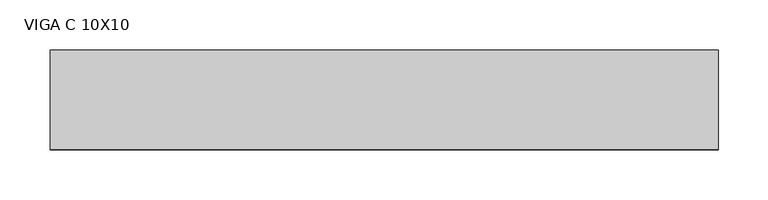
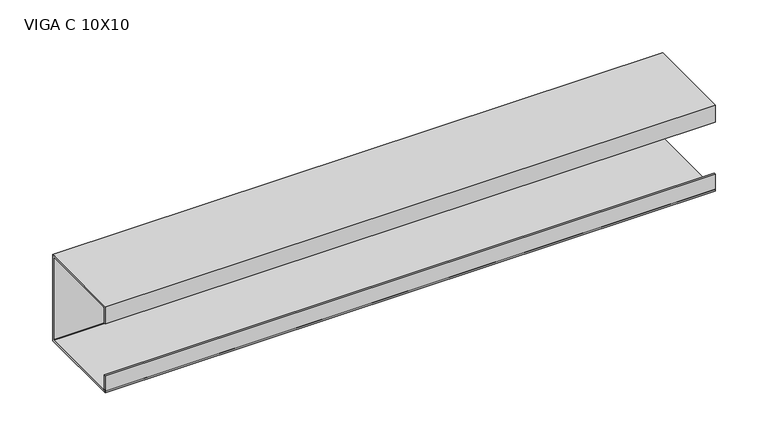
"""IFC4 building model written with IfcOpenShell, lengths in millimetres: beam geometry, VIGA PERFIL C AÇO : VIGA C 10X10."""

import ifcopenshell
import ifcopenshell.guid

model = None  # the IFC model being written
_history = None  # IfcOwnerHistory: only IFC2X3 demands one
_inside = {}  # id of a spatial element -> (the spatial element, [elements in it])
_under = {}  # id of a project, library or spatial element -> (it, [spatial elements below it])
_declared = {}  # id of a project -> (the project, [libraries it declares])
_typed = {}  # id of a type object -> (the type object, [elements of that type])
_made_of = {}  # id of a material, layer set ... -> (it, [elements and type objects made of it])


def new_model(schema):
    """Start an empty IFC model of exactly this schema.

    Asked for "IFC4X3", IfcOpenShell would pick the latest addendum, in which some entities
    have other attributes; the version numbers below select the first issue.
    IFC2X3 requires an IfcOwnerHistory on every rooted entity: one is made here for all.
    """
    global model, _history
    if schema == "IFC4X3":
        model = ifcopenshell.file(schema_version=(4, 3, 0, 0))
    else:
        model = ifcopenshell.file(schema=schema)
    _inside.clear()
    _under.clear()
    _declared.clear()
    _typed.clear()
    _made_of.clear()
    _history = None
    if model.schema == "IFC2X3":
        org = make("IfcOrganization", Name="unknown")
        user = make(
            "IfcPersonAndOrganization",
            ThePerson=make("IfcPerson", FamilyName="unknown"),
            TheOrganization=org,
        )
        app = make(
            "IfcApplication",
            ApplicationDeveloper=org,
            Version="unknown",
            ApplicationFullName="unknown",
            ApplicationIdentifier="unknown",
        )
        _history = make(
            "IfcOwnerHistory",
            OwningUser=user,
            OwningApplication=app,
            ChangeAction="ADDED",
            CreationDate=0,
        )
    return model


def make(cls, **values):
    """One entity of the class cls with the attributes given. An attribute that is None is left unset."""
    return model.create_entity(
        cls, **{name: value for name, value in values.items() if value is not None}
    )


def rooted(cls, **values):
    """An entity with a GlobalId (a new one), such as an element, a storey or a relation."""
    return make(cls, GlobalId=ifcopenshell.guid.new(), OwnerHistory=_history, **values)


def si_unit(unit_type, name, prefix=None):
    """IfcSIUnit, for example si_unit("LENGTHUNIT", "METRE", prefix="MILLI")."""
    return make("IfcSIUnit", UnitType=unit_type, Prefix=prefix, Name=name)


def assignment(units):
    """IfcUnitAssignment: the units of a project."""
    return None if units is None else make("IfcUnitAssignment", Units=units)


def point(xyz):
    """IfcCartesianPoint."""
    return None if xyz is None else make("IfcCartesianPoint", Coordinates=xyz)


def direction(xyz):
    """IfcDirection."""
    return None if xyz is None else make("IfcDirection", DirectionRatios=xyz)


def frame(location, z_axis=None, x_axis=None):
    """IfcAxis2Placement3D, a coordinate frame: its origin and axes. An axis left out is left unset."""
    return make(
        "IfcAxis2Placement3D",
        Location=point(location),
        Axis=direction(z_axis),
        RefDirection=direction(x_axis),
    )


def frame_2d(location, x_axis=None):
    """IfcAxis2Placement2D, a coordinate frame in the plane: its origin and x axis."""
    return make(
        "IfcAxis2Placement2D", Location=point(location), RefDirection=direction(x_axis)
    )


def origin():
    """The frame at (0, 0, 0) with its axes left unset."""
    return frame((0.0, 0.0, 0.0))


def place(relative_to, where):
    """IfcLocalPlacement: puts the frame where relative to a parent placement (None: the world)."""
    return make(
        "IfcLocalPlacement", PlacementRelTo=relative_to, RelativePlacement=where
    )


def context(
    kind, dimensions, precision=None, world=None, true_north=None, identifier=None
):
    """IfcGeometricRepresentationContext, for example the 3D "Model" context."""
    return make(
        "IfcGeometricRepresentationContext",
        ContextIdentifier=identifier,
        ContextType=kind,
        CoordinateSpaceDimension=dimensions,
        Precision=precision,
        WorldCoordinateSystem=world,
        TrueNorth=true_north,
    )


def project(units=None, contexts=None):
    """IfcProject with its units and contexts."""
    return rooted(
        "IfcProject",
        Name="project",
        RepresentationContexts=contexts,
        UnitsInContext=assignment(units),
    )


def spatial(cls, under=None, at=None, **own):
    """A site, building, storey or space (cls), placed at a placement, below another one or the project."""
    s = rooted(cls, ObjectPlacement=at, **own)
    if under is not None:
        _under.setdefault(under.id(), (under, []))[1].append(s)
    return s


def polyline(points):
    """IfcPolyline through the points."""
    return make("IfcPolyline", Points=[point(p) for p in points])


def circle_curve(where, radius):
    """IfcCircle in the frame where."""
    return make("IfcCircle", Position=where, Radius=radius)


def trimmed(basis, trim1, trim2, sense, master):
    """IfcTrimmedCurve: the piece of a basis curve between two trims."""
    return make(
        "IfcTrimmedCurve",
        BasisCurve=basis,
        Trim1=trim1,
        Trim2=trim2,
        SenseAgreement=sense,
        MasterRepresentation=master,
    )


def segment(curve, same_sense, transition):
    """IfcCompositeCurveSegment."""
    return make(
        "IfcCompositeCurveSegment",
        Transition=transition,
        SameSense=same_sense,
        ParentCurve=curve,
    )


def composite_curve(segments, self_intersect=None):
    """IfcCompositeCurve: segments joined end to end."""
    return make("IfcCompositeCurve", Segments=segments, SelfIntersect=self_intersect)


def outline(outer, holes=None, kind="AREA"):
    """IfcArbitraryClosedProfileDef: a profile drawn as a closed curve; with holes, ...WithVoids."""
    if holes is None:
        return make("IfcArbitraryClosedProfileDef", ProfileType=kind, OuterCurve=outer)
    return make(
        "IfcArbitraryProfileDefWithVoids",
        ProfileType=kind,
        OuterCurve=outer,
        InnerCurves=holes,
    )


def extrude(swept, where, along, depth):
    """IfcExtrudedAreaSolid: the profile swept, set in the frame where, extruded along a direction by depth."""
    return make(
        "IfcExtrudedAreaSolid",
        SweptArea=swept,
        Position=where,
        ExtrudedDirection=direction(along),
        Depth=depth,
    )


def shape(context_of_items, identifier, shape_type, items):
    """IfcShapeRepresentation: the items that make up one representation, for example the "Body"."""
    return make(
        "IfcShapeRepresentation",
        ContextOfItems=context_of_items,
        RepresentationIdentifier=identifier,
        RepresentationType=shape_type,
        Items=items,
    )


def source(mapping_origin, context_of_items, identifier, shape_type, items):
    """IfcRepresentationMap: a shape defined once, which mapped items show again and again."""
    return make(
        "IfcRepresentationMap",
        MappingOrigin=mapping_origin,
        MappedRepresentation=shape(context_of_items, identifier, shape_type, items),
    )


def transform(
    local_origin,
    x_axis=None,
    y_axis=None,
    z_axis=None,
    scale=None,
    scale2=None,
    scale3=None,
    uniform=True,
):
    """IfcCartesianTransformationOperator3D, or its non-uniform kind. x_axis, y_axis, z_axis: its Axis1, 2, 3."""
    if uniform:
        return make(
            "IfcCartesianTransformationOperator3D",
            Axis1=direction(x_axis),
            Axis2=direction(y_axis),
            LocalOrigin=point(local_origin),
            Scale=scale,
            Axis3=direction(z_axis),
        )
    return make(
        "IfcCartesianTransformationOperator3DnonUniform",
        Axis1=direction(x_axis),
        Axis2=direction(y_axis),
        LocalOrigin=point(local_origin),
        Scale=scale,
        Axis3=direction(z_axis),
        Scale2=scale2,
        Scale3=scale3,
    )


def mapped(mapping_source, mapping_target):
    """IfcMappedItem: shows the shape of a source again, moved by a transform."""
    return make(
        "IfcMappedItem", MappingSource=mapping_source, MappingTarget=mapping_target
    )


def made_of(thing, what):
    """Note that an element or type object is made of a material, layer set ...; save() writes the relation."""
    if what is not None:
        _made_of.setdefault(what.id(), (what, []))[1].append(thing)
    return thing


def element(
    cls,
    number,
    at=None,
    inside=None,
    cuts=None,
    type_object=None,
    material=None,
    context=None,
    identifier="Body",
    shape_type=None,
    held_by="IfcProductDefinitionShape",
    body=None,
    shapes=None,
    **own,
):
    """One element of the class cls, such as IfcWall. Its Tag is "e" and its number.

    at: its placement. inside: the storey or other place that contains it. cuts: it is an
    opening in that element (IfcRelVoidsElement). A single representation is given by context,
    identifier, shape_type and body (its items); several are given by shapes. held_by: the class
    of the entity that holds the representations. save() writes the other relations.
    """
    e = rooted(cls, Tag="e%d" % number, ObjectPlacement=at, **own)
    if body is not None:
        shapes = [shape(context, identifier, shape_type, body)]
    if shapes is not None:
        e.Representation = make(held_by, Representations=shapes)
    if inside is not None:
        _inside.setdefault(inside.id(), (inside, []))[1].append(e)
    if cuts is not None:
        rooted(
            "IfcRelVoidsElement", RelatingBuildingElement=cuts, RelatedOpeningElement=e
        )
    if type_object is not None:
        _typed.setdefault(type_object.id(), (type_object, []))[1].append(e)
    return made_of(e, material)


def aggregate(whole, parts):
    """IfcRelAggregates: a whole, such as a stair, and the parts it consists of."""
    return rooted("IfcRelAggregates", RelatingObject=whole, RelatedObjects=parts)


def save(model, path):
    """Write the relations noted so far, then the file.

    IfcRelAggregates (storeys below a building ...), IfcRelContainedInSpatialStructure (elements
    in a storey), IfcRelDefinesByType, IfcRelAssociatesMaterial and IfcRelDeclares: one each for
    every whole, place, type object, material and project.
    """
    for whole, parts in _under.values():
        aggregate(whole, parts)
    for where, things in _inside.values():
        rooted(
            "IfcRelContainedInSpatialStructure",
            RelatedElements=things,
            RelatingStructure=where,
        )
    for kind, things in _typed.values():
        rooted("IfcRelDefinesByType", RelatedObjects=things, RelatingType=kind)
    for what, things in _made_of.values():
        rooted("IfcRelAssociatesMaterial", RelatedObjects=things, RelatingMaterial=what)
    for by, libraries in _declared.values():
        rooted("IfcRelDeclares", RelatingContext=by, RelatedDefinitions=libraries)
    model.write(path)


def viga_c_10x10_0ee3ced8(model_context):
    return source(origin(), model_context, "Body", "SweptSolid", [
        extrude(outline(polyline([(9.2, -50.0), (-90.8, -50.0), (-90.8, -30.0), (-88.9, -30.0), (-88.9, -48.1), (7.3, -48.1), (7.3, 48.1), (-88.9, 48.1), (-88.9, 30.0), (-90.8, 30.0), (-90.8, 50.0), (9.2, 50.0), (9.2, -50.0)])), frame((-282.5, 0.0, 0.0), z_axis=(1.0, 0.0, 0.0), x_axis=(0.0, 1.0, 0.0)), (0.0, 0.0, 1.0), 668.0),
        extrude(outline(composite_curve([segment(trimmed(circle_curve(frame_2d((5.4, -46.2)), 3.8), [point((9.2, -46.2))], [point((5.4, -50.0))], False, "CARTESIAN"), True, "CONTINUOUS"), segment(polyline([(5.4, -50.0), (-87.0, -50.0)]), True, "CONTINUOUS"), segment(trimmed(circle_curve(frame_2d((-87.0, -46.2)), 3.8), [point((-87.0, -50.0))], [point((-90.8, -46.2))], False, "CARTESIAN"), True, "CONTINUOUS"), segment(polyline([(-90.8, -46.2), (-90.8, -30.0), (-88.9, -30.0), (-88.9, -46.2)]), True, "CONTINUOUS"), segment(trimmed(circle_curve(frame_2d((-87.0, -46.2)), 1.9), [point((-88.9, -46.2))], [point((-87.0, -48.1))], True, "CARTESIAN"), True, "CONTINUOUS"), segment(polyline([(-87.0, -48.1), (5.4, -48.1)]), True, "CONTINUOUS"), segment(trimmed(circle_curve(frame_2d((5.4, -46.2)), 1.9), [point((5.4, -48.1))], [point((7.3, -46.2))], True, "CARTESIAN"), True, "CONTINUOUS"), segment(polyline([(7.3, -46.2), (7.3, 46.2)]), True, "CONTINUOUS"), segment(trimmed(circle_curve(frame_2d((5.4, 46.2)), 1.9), [point((7.3, 46.2))], [point((5.4, 48.1))], True, "CARTESIAN"), True, "CONTINUOUS"), segment(polyline([(5.4, 48.1), (-87.0, 48.1)]), True, "CONTINUOUS"), segment(trimmed(circle_curve(frame_2d((-87.0, 46.2)), 1.9), [point((-87.0, 48.1))], [point((-88.9, 46.2))], True, "CARTESIAN"), True, "CONTINUOUS"), segment(polyline([(-88.9, 46.2), (-88.9, 30.0), (-90.8, 30.0), (-90.8, 46.2)]), True, "CONTINUOUS"), segment(trimmed(circle_curve(frame_2d((-87.0, 46.2)), 3.8), [point((-90.8, 46.2))], [point((-87.0, 50.0))], False, "CARTESIAN"), True, "CONTINUOUS"), segment(polyline([(-87.0, 50.0), (5.4, 50.0)]), True, "CONTINUOUS"), segment(trimmed(circle_curve(frame_2d((5.4, 46.2)), 3.8), [point((5.4, 50.0))], [point((9.2, 46.2))], False, "CARTESIAN"), True, "CONTINUOUS"), segment(polyline([(9.2, 46.2), (9.2, -46.2)]), True, "CONTINUOUS")], self_intersect=False)), frame((-282.5, 0.0, 0.0), z_axis=(1.0, 0.0, 0.0), x_axis=(0.0, 1.0, 0.0)), (0.0, 0.0, 1.0), 668.0),
    ])


if __name__ == "__main__":
    model = new_model("IFC4")
    model_context = context("Model", 3, world=origin())
    ifc_project = project(units=[si_unit("LENGTHUNIT", "METRE", prefix="MILLI")], contexts=[model_context])
    site = spatial("IfcSite", under=ifc_project)
    building = spatial("IfcBuilding", under=site)
    placement = place(None, origin())
    viga_c_10x10_shape = viga_c_10x10_0ee3ced8(model_context)
    element("IfcBeam", 1, ObjectType="VIGA PERFIL C AÇO : VIGA C 10X10", at=placement, inside=building, context=model_context, shape_type="MappedRepresentation", body=[
        mapped(viga_c_10x10_shape, transform((0.0, 0.0, 0.0), x_axis=(1.0, 0.0, 0.0), y_axis=(0.0, 1.0, 0.0), z_axis=(0.0, 0.0, 1.0))),
    ])
    save(model, "model.ifc")
